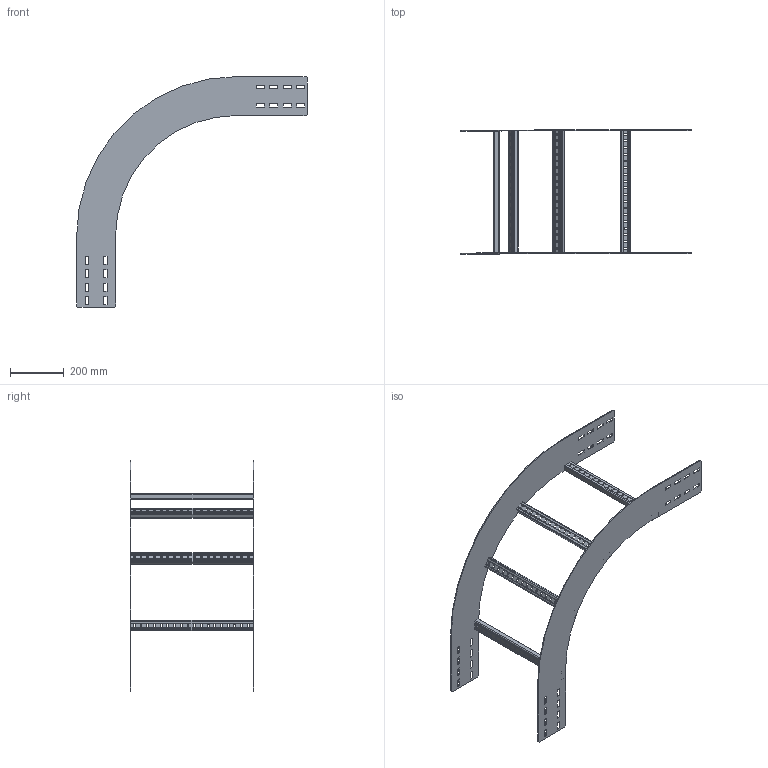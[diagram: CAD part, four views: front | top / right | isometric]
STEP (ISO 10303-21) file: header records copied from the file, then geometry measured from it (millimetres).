
FILE_DESCRIPTION(('Creo Elements/Direct Modeling STEP Export'),'2;1');
FILE_NAME('WPOR15-45-90-45-HDG.stp','2016-11-10T14:52:29',(''),(''),'PTC Creo Elements/Direct Modeling STEP processor for AP214 (Solid Model)','PTC Creo Elements/Direct Modeling 19.0C 15-Aug-2015 (C) Parametric Technology GmbH','');
FILE_SCHEMA(('AUTOMOTIVE_DESIGN { 1 0 10303 214 1 1 1 1 }'));
Length unit declared in the file: millimetre
Products named in the file (3): WPIBG150_450; WPHBS45.1.4.1; WPOR15-45-90-45
Assembly tree (6 placements, depth 2):
  WPOR15-45-90-45
    WPHBS45.1.4.1  x4
    WPIBG150_450  x2
Bounding box: 860 x 461 x 860 mm (x, y, z)
Volume: 1407350.4 mm3; surface area: 1152238.2 mm2
Topology: 6 solids, 6 shells, 604 faces, 1776 edges, 1184 vertices
Faces by surface type: plane 384, cylinder 220
Entity records: 6532 total; most frequent: CARTESIAN_POINT 1126, ORIENTED_EDGE 1116, DIRECTION 1062, EDGE_CURVE 558, VECTOR 446, LINE 446, VERTEX_POINT 372, AXIS2_PLACEMENT_3D 308
